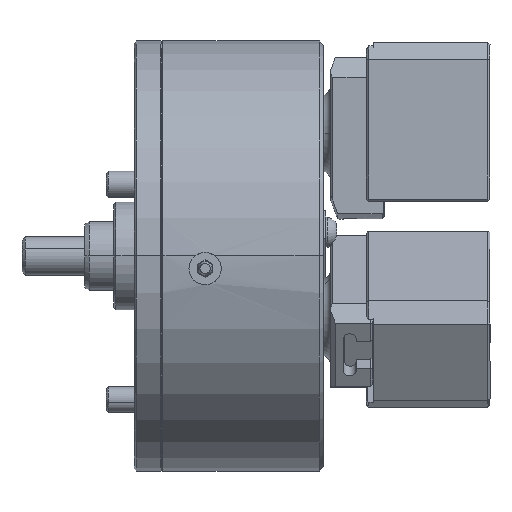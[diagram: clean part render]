
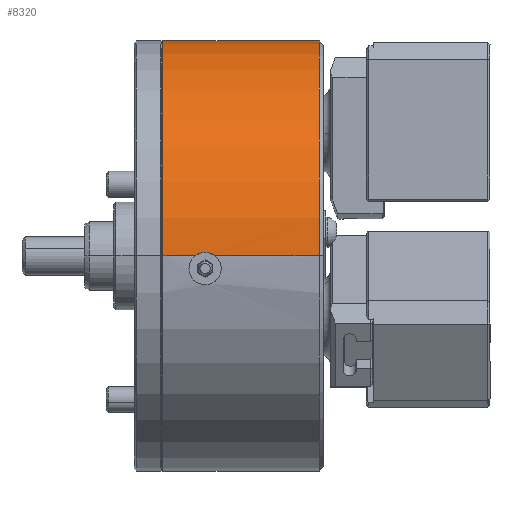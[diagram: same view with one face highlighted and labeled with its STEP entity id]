
A CAD part, top view. The second image highlights one B-rep face of the part: STEP entity #8320.
In plain terms, the highlighted cylindrical face has radius 100 mm (diameter 200 mm), a partial arc.
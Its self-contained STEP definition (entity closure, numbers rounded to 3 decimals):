
#555 = CARTESIAN_POINT ( 'NONE',  ( -53.009, 1.242, 99.992 ) ) ;
#736 = CARTESIAN_POINT ( 'NONE',  ( -59.18, 0.24, 100. ) ) ;
#829 = EDGE_CURVE ( 'NONE', #939, #35382, #21202, .T. ) ;
#939 = VERTEX_POINT ( 'NONE', #46841 ) ;
#1679 = EDGE_CURVE ( 'NONE', #35382, #20803, #39264, .T. ) ;
#1742 = VERTEX_POINT ( 'NONE', #8173 ) ;
#2959 = VERTEX_POINT ( 'NONE', #13215 ) ;
#4897 = CARTESIAN_POINT ( 'NONE',  ( -54.2, 1.468, 99.989 ) ) ;
#6422 = ORIENTED_EDGE ( 'NONE', *, *, #1679, .F. ) ;
#7337 = AXIS2_PLACEMENT_3D ( 'NONE', #12314, #16419, #12138 ) ;
#8173 = CARTESIAN_POINT ( 'NONE',  ( -50.5, 0., 100. ) ) ;
#8320 = ADVANCED_FACE ( 'NONE', ( #44191 ), #10801, .T. ) ;
#8798 = DIRECTION ( 'NONE',  ( 0., 0., -1. ) ) ;
#9106 = CARTESIAN_POINT ( 'NONE',  ( 63.843, 0., 100. ) ) ;
#9197 = CARTESIAN_POINT ( 'NONE',  ( -55.2, 1.5, 99.989 ) ) ;
#9709 = CARTESIAN_POINT ( 'NONE',  ( 63.843, 0., -100. ) ) ;
#10627 = CARTESIAN_POINT ( 'NONE',  ( -74.6, 0., 0. ) ) ;
#10801 = CYLINDRICAL_SURFACE ( 'NONE', #7337, 100. ) ;
#11112 = CARTESIAN_POINT ( 'NONE',  ( -2., 0., 100. ) ) ;
#11811 = ORIENTED_EDGE ( 'NONE', *, *, #17012, .T. ) ;
#12138 = DIRECTION ( 'NONE',  ( 0., 0., -1. ) ) ;
#12314 = CARTESIAN_POINT ( 'NONE',  ( 63.843, 0., 0. ) ) ;
#13211 = CARTESIAN_POINT ( 'NONE',  ( -50.5, 0., 100. ) ) ;
#13215 = CARTESIAN_POINT ( 'NONE',  ( -74.6, 0., 100. ) ) ;
#13305 = DIRECTION ( 'NONE',  ( 1., 0., 0. ) ) ;
#13389 = CARTESIAN_POINT ( 'NONE',  ( -55.804, 1.46, 99.989 ) ) ;
#14828 = DIRECTION ( 'NONE',  ( 0., 0., -1. ) ) ;
#15250 = B_SPLINE_CURVE_WITH_KNOTS ( 'NONE', 3,
 ( #13211, #29883, #21652, #50891, #25710, #555, #30075, #4897, #34380, #9197, #38680, #13389, #42714, #17631, #46824, #21825, #51080, #25902, #736, #30274 ),
 .UNSPECIFIED., .F., .F.,
 ( 4, 2, 2, 2, 2, 2, 2, 2, 2, 4 ),
 ( 0.007, 0.008, 0.009, 0.011, 0.012, 0.012, 0.013, 0.014, 0.015, 0.017 ),
 .UNSPECIFIED. ) ;
#16419 = DIRECTION ( 'NONE',  ( 1., 0., 0. ) ) ;
#16703 = LINE ( 'NONE', #40250, #39160 ) ;
#17012 = EDGE_CURVE ( 'NONE', #1742, #20803, #16703, .T. ) ;
#17270 = ORIENTED_EDGE ( 'NONE', *, *, #829, .F. ) ;
#17631 = CARTESIAN_POINT ( 'NONE',  ( -56.603, 1.338, 99.991 ) ) ;
#18227 = VECTOR ( 'NONE', #50354, 1000. ) ;
#19771 = VECTOR ( 'NONE', #13305, 1000. ) ;
#20640 = AXIS2_PLACEMENT_3D ( 'NONE', #28738, #26082, #8798 ) ;
#20803 = VERTEX_POINT ( 'NONE', #11112 ) ;
#21202 = LINE ( 'NONE', #9709, #18227 ) ;
#21652 = CARTESIAN_POINT ( 'NONE',  ( -51.167, 0.459, 99.999 ) ) ;
#21825 = CARTESIAN_POINT ( 'NONE',  ( -57.752, 0.989, 99.995 ) ) ;
#23117 = AXIS2_PLACEMENT_3D ( 'NONE', #10627, #40060, #14828 ) ;
#25710 = CARTESIAN_POINT ( 'NONE',  ( -52.248, 0.988, 99.995 ) ) ;
#25847 = CIRCLE ( 'NONE', #23117, 100. ) ;
#25902 = CARTESIAN_POINT ( 'NONE',  ( -58.841, 0.454, 99.999 ) ) ;
#26082 = DIRECTION ( 'NONE',  ( 1., 0., 0. ) ) ;
#26426 = CARTESIAN_POINT ( 'NONE',  ( -59.5, 0., 100. ) ) ;
#28738 = CARTESIAN_POINT ( 'NONE',  ( -2., 0., 0. ) ) ;
#29883 = CARTESIAN_POINT ( 'NONE',  ( -50.821, 0.241, 100. ) ) ;
#30075 = CARTESIAN_POINT ( 'NONE',  ( -53.405, 1.34, 99.991 ) ) ;
#30274 = CARTESIAN_POINT ( 'NONE',  ( -59.5, 0., 100. ) ) ;
#32524 = ORIENTED_EDGE ( 'NONE', *, *, #32949, .T. ) ;
#32949 = EDGE_CURVE ( 'NONE', #939, #2959, #25847, .T. ) ;
#33312 = ORIENTED_EDGE ( 'NONE', *, *, #38626, .T. ) ;
#34380 = CARTESIAN_POINT ( 'NONE',  ( -54.599, 1.5, 99.989 ) ) ;
#35382 = VERTEX_POINT ( 'NONE', #39341 ) ;
#37198 = DIRECTION ( 'NONE',  ( 1., 0., 0. ) ) ;
#38626 = EDGE_CURVE ( 'NONE', #2959, #47186, #53135, .T. ) ;
#38680 = CARTESIAN_POINT ( 'NONE',  ( -55.401, 1.492, 99.989 ) ) ;
#39160 = VECTOR ( 'NONE', #37198, 1000. ) ;
#39264 = CIRCLE ( 'NONE', #20640, 100. ) ;
#39341 = CARTESIAN_POINT ( 'NONE',  ( -2., 0., -100. ) ) ;
#40060 = DIRECTION ( 'NONE',  ( 1., 0., 0. ) ) ;
#40250 = CARTESIAN_POINT ( 'NONE',  ( 63.843, 0., 100. ) ) ;
#42714 = CARTESIAN_POINT ( 'NONE',  ( -56.006, 1.435, 99.99 ) ) ;
#44191 = FACE_OUTER_BOUND ( 'NONE', #54027, .T. ) ;
#46824 = CARTESIAN_POINT ( 'NONE',  ( -56.992, 1.242, 99.992 ) ) ;
#46841 = CARTESIAN_POINT ( 'NONE',  ( -74.6, 0., -100. ) ) ;
#47186 = VERTEX_POINT ( 'NONE', #26426 ) ;
#47863 = EDGE_CURVE ( 'NONE', #1742, #47186, #15250, .T. ) ;
#50354 = DIRECTION ( 'NONE',  ( 1., 0., 0. ) ) ;
#50891 = CARTESIAN_POINT ( 'NONE',  ( -51.879, 0.832, 99.997 ) ) ;
#51080 = CARTESIAN_POINT ( 'NONE',  ( -58.125, 0.83, 99.997 ) ) ;
#51714 = ORIENTED_EDGE ( 'NONE', *, *, #47863, .F. ) ;
#53135 = LINE ( 'NONE', #9106, #19771 ) ;
#54027 = EDGE_LOOP ( 'NONE', ( #32524, #33312, #51714, #11811, #6422, #17270 ) ) ;
